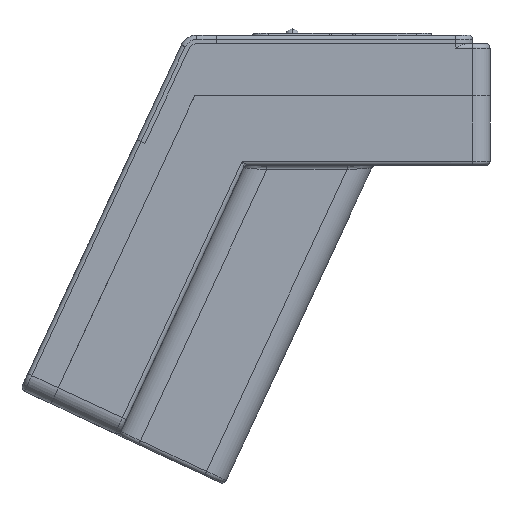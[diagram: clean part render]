
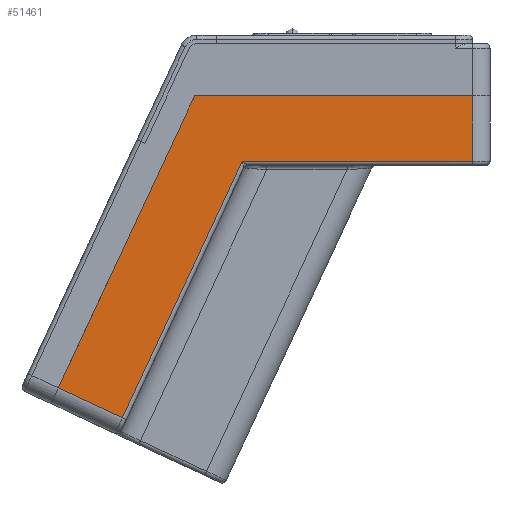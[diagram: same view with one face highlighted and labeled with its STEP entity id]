
A CAD part, left-side view. The second image highlights one B-rep face of the part: STEP entity #51461.
In plain terms, the highlighted planar face has unit normal (-1, 0, 0).
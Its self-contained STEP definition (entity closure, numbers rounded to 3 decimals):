
#3469 = PLANE ( 'NONE',  #41164 ) ;
#6001 = EDGE_CURVE ( 'NONE', #53458, #16835, #29810, .T. ) ;
#6202 = EDGE_CURVE ( 'NONE', #33426, #31833, #31838, .T. ) ;
#7094 = VERTEX_POINT ( 'NONE', #29791 ) ;
#7186 = EDGE_CURVE ( 'NONE', #16835, #37784, #30357, .T. ) ;
#7785 = CARTESIAN_POINT ( 'NONE',  ( -59., -17., -10. ) ) ;
#7799 = LINE ( 'NONE', #26646, #29630 ) ;
#7867 = DIRECTION ( 'NONE',  ( 0., 0., -1. ) ) ;
#9153 = CARTESIAN_POINT ( 'NONE',  ( -59., -17., 3.5 ) ) ;
#13263 = EDGE_CURVE ( 'NONE', #37784, #33426, #42379, .T. ) ;
#16835 = VERTEX_POINT ( 'NONE', #56235 ) ;
#17534 = LINE ( 'NONE', #7785, #49508 ) ;
#18123 = DIRECTION ( 'NONE',  ( 0., -0.423, 0.906 ) ) ;
#18674 = ORIENTED_EDGE ( 'NONE', *, *, #13263, .T. ) ;
#18767 = CARTESIAN_POINT ( 'NONE',  ( -59., 23.297, -39.543 ) ) ;
#18830 = VECTOR ( 'NONE', #30349, 1000. ) ;
#19413 = ORIENTED_EDGE ( 'NONE', *, *, #30742, .T. ) ;
#19635 = VECTOR ( 'NONE', #39651, 1000. ) ;
#20306 = VECTOR ( 'NONE', #32360, 1000. ) ;
#21479 = DIRECTION ( 'NONE',  ( 0., 0.423, -0.906 ) ) ;
#21719 = ORIENTED_EDGE ( 'NONE', *, *, #6202, .T. ) ;
#25228 = CARTESIAN_POINT ( 'NONE',  ( -59., 0., 0. ) ) ;
#26376 = CARTESIAN_POINT ( 'NONE',  ( -59., 30.666, -36.106 ) ) ;
#26646 = CARTESIAN_POINT ( 'NONE',  ( -59., 9.656, -10.289 ) ) ;
#27988 = CARTESIAN_POINT ( 'NONE',  ( -59., 22.844, -39.754 ) ) ;
#29630 = VECTOR ( 'NONE', #18123, 1000. ) ;
#29791 = CARTESIAN_POINT ( 'NONE',  ( -59., 9.521, -10. ) ) ;
#29810 = LINE ( 'NONE', #9153, #19635 ) ;
#30162 = CARTESIAN_POINT ( 'NONE',  ( -59., 15., -2.51 ) ) ;
#30253 = CARTESIAN_POINT ( 'NONE',  ( -59., 15., -2.51 ) ) ;
#30349 = DIRECTION ( 'NONE',  ( 0., 1., 0. ) ) ;
#30357 = LINE ( 'NONE', #30162, #18830 ) ;
#30742 = EDGE_CURVE ( 'NONE', #7094, #53458, #17534, .T. ) ;
#31592 = CARTESIAN_POINT ( 'NONE',  ( -59., -17., -10. ) ) ;
#31833 = VERTEX_POINT ( 'NONE', #18767 ) ;
#31838 = LINE ( 'NONE', #27988, #20306 ) ;
#32360 = DIRECTION ( 'NONE',  ( 0., -0.906, -0.423 ) ) ;
#33426 = VERTEX_POINT ( 'NONE', #26376 ) ;
#33977 = DIRECTION ( 'NONE',  ( 1., 0., 0. ) ) ;
#37784 = VERTEX_POINT ( 'NONE', #30253 ) ;
#39147 = ORIENTED_EDGE ( 'NONE', *, *, #7186, .T. ) ;
#39651 = DIRECTION ( 'NONE',  ( 0., 0., 1. ) ) ;
#41164 = AXIS2_PLACEMENT_3D ( 'NONE', #25228, #33977, #7867 ) ;
#42379 = LINE ( 'NONE', #47767, #52605 ) ;
#44841 = EDGE_CURVE ( 'NONE', #31833, #7094, #7799, .T. ) ;
#45478 = ORIENTED_EDGE ( 'NONE', *, *, #44841, .T. ) ;
#47767 = CARTESIAN_POINT ( 'NONE',  ( -59., 15., -2.51 ) ) ;
#48121 = ORIENTED_EDGE ( 'NONE', *, *, #6001, .T. ) ;
#49508 = VECTOR ( 'NONE', #51280, 1000. ) ;
#51280 = DIRECTION ( 'NONE',  ( 0., -1., 0. ) ) ;
#51461 = ADVANCED_FACE ( 'NONE', ( #53599 ), #3469, .F. ) ;
#52156 = EDGE_LOOP ( 'NONE', ( #45478, #19413, #48121, #39147, #18674, #21719 ) ) ;
#52605 = VECTOR ( 'NONE', #21479, 1000. ) ;
#53458 = VERTEX_POINT ( 'NONE', #31592 ) ;
#53599 = FACE_OUTER_BOUND ( 'NONE', #52156, .T. ) ;
#56235 = CARTESIAN_POINT ( 'NONE',  ( -59., -17., -2.51 ) ) ;
